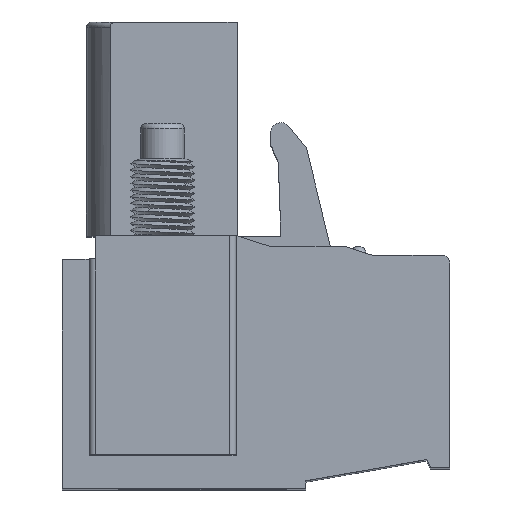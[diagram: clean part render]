
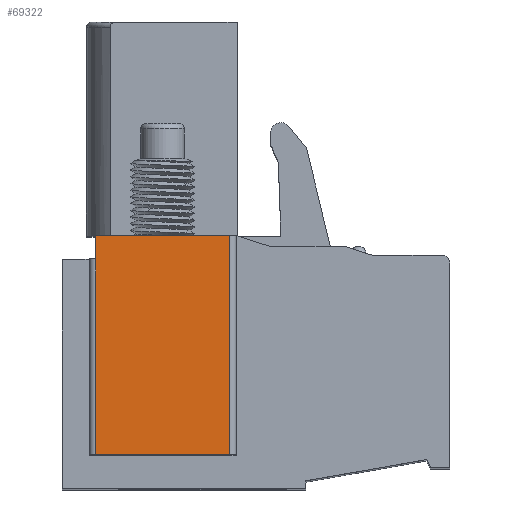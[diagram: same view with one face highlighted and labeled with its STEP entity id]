
A CAD part, top view. The second image highlights one B-rep face of the part: STEP entity #69322.
In plain terms, the highlighted planar face has unit normal (0, 0, 1).
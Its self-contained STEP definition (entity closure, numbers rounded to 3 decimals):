
#69322 = ADVANCED_FACE('',(#69323),#69337,.T.);
#69323 = FACE_BOUND('',#69324,.F.);
#69324 = EDGE_LOOP('',(#69325,#69348,#69364,#69380,#69396));
#69325 = ORIENTED_EDGE('',*,*,#69326,.F.);
#69326 = EDGE_CURVE('',#69327,#69329,#69331,.T.);
#69327 = VERTEX_POINT('',#69328);
#69328 = CARTESIAN_POINT('',(2.6,9.8,35.56));
#69329 = VERTEX_POINT('',#69330);
#69330 = CARTESIAN_POINT('',(-2.6,9.8,35.56));
#69331 = SURFACE_CURVE('',#69332,(#69336),.PCURVE_S1.);
#69332 = LINE('',#69333,#69334);
#69333 = CARTESIAN_POINT('',(2.6,9.8,35.56));
#69334 = VECTOR('',#69335,1.);
#69335 = DIRECTION('',(-1.,0.,0.));
#69336 = PCURVE('',#69337,#69342);
#69337 = PLANE('',#69338);
#69338 = AXIS2_PLACEMENT_3D('',#69339,#69340,#69341);
#69339 = CARTESIAN_POINT('',(-14.55,18.918,35.56));
#69340 = DIRECTION('',(0.,0.,1.));
#69341 = DIRECTION('',(0.,-1.,0.));
#69342 = DEFINITIONAL_REPRESENTATION('',(#69343),#69347);
#69343 = LINE('',#69344,#69345);
#69344 = CARTESIAN_POINT('',(9.118,17.15));
#69345 = VECTOR('',#69346,1.);
#69346 = DIRECTION('',(0.,-1.));
#69347 = ( GEOMETRIC_REPRESENTATION_CONTEXT(2) 
PARAMETRIC_REPRESENTATION_CONTEXT() REPRESENTATION_CONTEXT('2D SPACE',''
  ) );
#69348 = ORIENTED_EDGE('',*,*,#69349,.F.);
#69349 = EDGE_CURVE('',#69350,#69327,#69352,.T.);
#69350 = VERTEX_POINT('',#69351);
#69351 = CARTESIAN_POINT('',(2.6,1.3,35.56));
#69352 = SURFACE_CURVE('',#69353,(#69357),.PCURVE_S1.);
#69353 = LINE('',#69354,#69355);
#69354 = CARTESIAN_POINT('',(2.6,1.3,35.56));
#69355 = VECTOR('',#69356,1.);
#69356 = DIRECTION('',(0.,1.,0.));
#69357 = PCURVE('',#69337,#69358);
#69358 = DEFINITIONAL_REPRESENTATION('',(#69359),#69363);
#69359 = LINE('',#69360,#69361);
#69360 = CARTESIAN_POINT('',(17.618,17.15));
#69361 = VECTOR('',#69362,1.);
#69362 = DIRECTION('',(-1.,0.));
#69363 = ( GEOMETRIC_REPRESENTATION_CONTEXT(2) 
PARAMETRIC_REPRESENTATION_CONTEXT() REPRESENTATION_CONTEXT('2D SPACE',''
  ) );
#69364 = ORIENTED_EDGE('',*,*,#69365,.T.);
#69365 = EDGE_CURVE('',#69350,#69366,#69368,.T.);
#69366 = VERTEX_POINT('',#69367);
#69367 = CARTESIAN_POINT('',(-2.6,1.3,35.56));
#69368 = SURFACE_CURVE('',#69369,(#69373),.PCURVE_S1.);
#69369 = LINE('',#69370,#69371);
#69370 = CARTESIAN_POINT('',(2.6,1.3,35.56));
#69371 = VECTOR('',#69372,1.);
#69372 = DIRECTION('',(-1.,0.,0.));
#69373 = PCURVE('',#69337,#69374);
#69374 = DEFINITIONAL_REPRESENTATION('',(#69375),#69379);
#69375 = LINE('',#69376,#69377);
#69376 = CARTESIAN_POINT('',(17.618,17.15));
#69377 = VECTOR('',#69378,1.);
#69378 = DIRECTION('',(0.,-1.));
#69379 = ( GEOMETRIC_REPRESENTATION_CONTEXT(2) 
PARAMETRIC_REPRESENTATION_CONTEXT() REPRESENTATION_CONTEXT('2D SPACE',''
  ) );
#69380 = ORIENTED_EDGE('',*,*,#69381,.F.);
#69381 = EDGE_CURVE('',#69382,#69366,#69384,.T.);
#69382 = VERTEX_POINT('',#69383);
#69383 = CARTESIAN_POINT('',(-2.6,8.9,35.56));
#69384 = SURFACE_CURVE('',#69385,(#69389),.PCURVE_S1.);
#69385 = LINE('',#69386,#69387);
#69386 = CARTESIAN_POINT('',(-2.6,8.9,35.56));
#69387 = VECTOR('',#69388,1.);
#69388 = DIRECTION('',(0.,-1.,0.));
#69389 = PCURVE('',#69337,#69390);
#69390 = DEFINITIONAL_REPRESENTATION('',(#69391),#69395);
#69391 = LINE('',#69392,#69393);
#69392 = CARTESIAN_POINT('',(10.018,11.95));
#69393 = VECTOR('',#69394,1.);
#69394 = DIRECTION('',(1.,0.));
#69395 = ( GEOMETRIC_REPRESENTATION_CONTEXT(2) 
PARAMETRIC_REPRESENTATION_CONTEXT() REPRESENTATION_CONTEXT('2D SPACE',''
  ) );
#69396 = ORIENTED_EDGE('',*,*,#69397,.F.);
#69397 = EDGE_CURVE('',#69329,#69382,#69398,.T.);
#69398 = SURFACE_CURVE('',#69399,(#69403),.PCURVE_S1.);
#69399 = LINE('',#69400,#69401);
#69400 = CARTESIAN_POINT('',(-2.6,9.8,35.56));
#69401 = VECTOR('',#69402,1.);
#69402 = DIRECTION('',(0.,-1.,0.));
#69403 = PCURVE('',#69337,#69404);
#69404 = DEFINITIONAL_REPRESENTATION('',(#69405),#69409);
#69405 = LINE('',#69406,#69407);
#69406 = CARTESIAN_POINT('',(9.118,11.95));
#69407 = VECTOR('',#69408,1.);
#69408 = DIRECTION('',(1.,0.));
#69409 = ( GEOMETRIC_REPRESENTATION_CONTEXT(2) 
PARAMETRIC_REPRESENTATION_CONTEXT() REPRESENTATION_CONTEXT('2D SPACE',''
  ) );
